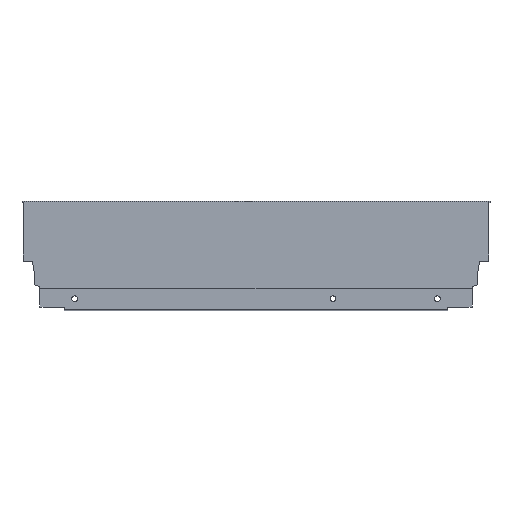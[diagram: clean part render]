
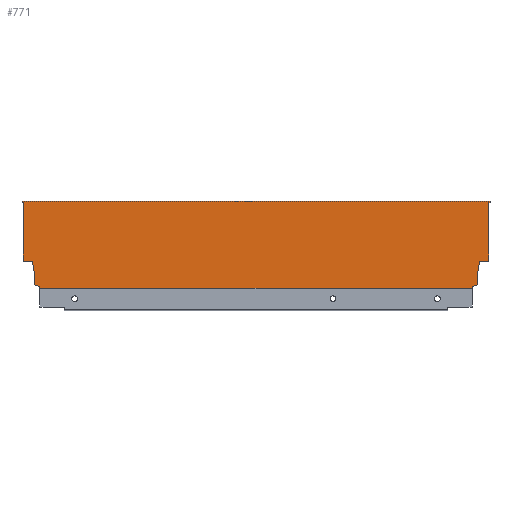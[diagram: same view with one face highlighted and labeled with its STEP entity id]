
A CAD part, top view. The second image highlights one B-rep face of the part: STEP entity #771.
In plain terms, the highlighted planar face has unit normal (0, 0, 1).
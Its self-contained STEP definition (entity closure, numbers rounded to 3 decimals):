
#14 = VERTEX_POINT ( 'NONE', #105 ) ;
#20 = VERTEX_POINT ( 'NONE', #111 ) ;
#22 = VERTEX_POINT ( 'NONE', #113 ) ;
#29 = VERTEX_POINT ( 'NONE', #120 ) ;
#30 = VERTEX_POINT ( 'NONE', #121 ) ;
#31 = VERTEX_POINT ( 'NONE', #122 ) ;
#34 = VERTEX_POINT ( 'NONE', #125 ) ;
#35 = VERTEX_POINT ( 'NONE', #126 ) ;
#37 = VERTEX_POINT ( 'NONE', #128 ) ;
#39 = VERTEX_POINT ( 'NONE', #130 ) ;
#42 = VERTEX_POINT ( 'NONE', #133 ) ;
#49 = VERTEX_POINT ( 'NONE', #140 ) ;
#54 = VERTEX_POINT ( 'NONE', #145 ) ;
#57 = VERTEX_POINT ( 'NONE', #148 ) ;
#59 = VERTEX_POINT ( 'NONE', #150 ) ;
#60 = VERTEX_POINT ( 'NONE', #151 ) ;
#62 = VERTEX_POINT ( 'NONE', #153 ) ;
#66 = VERTEX_POINT ( 'NONE', #157 ) ;
#105 = CARTESIAN_POINT ( 'NONE',  ( 0., 66.5, 7.5 ) ) ;
#111 = CARTESIAN_POINT ( 'NONE',  ( -363., 66.5, 7.5 ) ) ;
#113 = CARTESIAN_POINT ( 'NONE',  ( -354.1, 2.64, 7.5 ) ) ;
#120 = CARTESIAN_POINT ( 'NONE',  ( -13.004, 0., 7.5 ) ) ;
#121 = CARTESIAN_POINT ( 'NONE',  ( -8.9, 2.64, 7.5 ) ) ;
#122 = CARTESIAN_POINT ( 'NONE',  ( -13.004, 1.146, 7.5 ) ) ;
#125 = CARTESIAN_POINT ( 'NONE',  ( -363., 21.2, 7.5 ) ) ;
#126 = CARTESIAN_POINT ( 'NONE',  ( 1., 68., 7.5 ) ) ;
#128 = CARTESIAN_POINT ( 'NONE',  ( 0., 21.2, 7.5 ) ) ;
#130 = CARTESIAN_POINT ( 'NONE',  ( -355.94, 21.2, 7.5 ) ) ;
#133 = CARTESIAN_POINT ( 'NONE',  ( -354.1, 10.765, 7.5 ) ) ;
#140 = CARTESIAN_POINT ( 'NONE',  ( -7.06, 21.2, 7.5 ) ) ;
#145 = CARTESIAN_POINT ( 'NONE',  ( -364., 68., 7.5 ) ) ;
#148 = CARTESIAN_POINT ( 'NONE',  ( -8.9, 10.765, 7.5 ) ) ;
#150 = CARTESIAN_POINT ( 'NONE',  ( 1., 66.5, 7.5 ) ) ;
#151 = CARTESIAN_POINT ( 'NONE',  ( -349.996, 1.146, 7.5 ) ) ;
#153 = CARTESIAN_POINT ( 'NONE',  ( -349.996, 0., 7.5 ) ) ;
#157 = CARTESIAN_POINT ( 'NONE',  ( -364., 66.5, 7.5 ) ) ;
#379 = PLANE ( 'NONE',  #916 ) ;
#382 = CARTESIAN_POINT ( 'NONE',  ( -363., 0., 7.5 ) ) ;
#385 = DIRECTION ( 'NONE',  ( 0., 0., 1. ) ) ;
#386 = DIRECTION ( 'NONE',  ( 1., 0., 0. ) ) ;
#600 = CARTESIAN_POINT ( 'NONE',  ( 0., 0., 7.5 ) ) ;
#601 = DIRECTION ( 'NONE',  ( 0., -1., 0. ) ) ;
#639 = CARTESIAN_POINT ( 'NONE',  ( -355.94, 21.2, 7.5 ) ) ;
#640 = DIRECTION ( 'NONE',  ( -0.174, 0.985, 0. ) ) ;
#641 = CARTESIAN_POINT ( 'NONE',  ( -363., 0., 7.5 ) ) ;
#648 = CARTESIAN_POINT ( 'NONE',  ( -364., 66.5, 7.5 ) ) ;
#649 = DIRECTION ( 'NONE',  ( 0., 1., 0. ) ) ;
#652 = CARTESIAN_POINT ( 'NONE',  ( -363., 0., 7.5 ) ) ;
#653 = DIRECTION ( 'NONE',  ( 0., -1., 0. ) ) ;
#654 = CARTESIAN_POINT ( 'NONE',  ( -349.996, 1.146, 7.5 ) ) ;
#655 = DIRECTION ( 'NONE',  ( 1., 0., 0. ) ) ;
#656 = CARTESIAN_POINT ( 'NONE',  ( -354.1, 2.64, 7.5 ) ) ;
#657 = DIRECTION ( 'NONE',  ( -0.94, 0.342, 0. ) ) ;
#658 = CARTESIAN_POINT ( 'NONE',  ( -364., 66.5, 7.5 ) ) ;
#659 = DIRECTION ( 'NONE',  ( 1., 0., 0. ) ) ;
#660 = CARTESIAN_POINT ( 'NONE',  ( -8.9, 10.765, 7.5 ) ) ;
#661 = DIRECTION ( 'NONE',  ( 0., -1., 0. ) ) ;
#662 = CARTESIAN_POINT ( 'NONE',  ( -368., 21.2, 7.5 ) ) ;
#663 = DIRECTION ( 'NONE',  ( -1., 0., 0. ) ) ;
#664 = CARTESIAN_POINT ( 'NONE',  ( -7.06, 21.2, 7.5 ) ) ;
#665 = DIRECTION ( 'NONE',  ( -0.174, -0.985, 0. ) ) ;
#667 = CARTESIAN_POINT ( 'NONE',  ( -363., 68., 7.5 ) ) ;
#668 = DIRECTION ( 'NONE',  ( 1., 0., 0. ) ) ;
#669 = DIRECTION ( 'NONE',  ( 0., 1., 0. ) ) ;
#670 = CARTESIAN_POINT ( 'NONE',  ( -354.1, 10.765, 7.5 ) ) ;
#671 = DIRECTION ( 'NONE',  ( 0., 1., 0. ) ) ;
#672 = CARTESIAN_POINT ( 'NONE',  ( 0., 21.2, 7.5 ) ) ;
#673 = DIRECTION ( 'NONE',  ( -1., 0., 0. ) ) ;
#681 = CARTESIAN_POINT ( 'NONE',  ( -13.004, 1.146, 7.5 ) ) ;
#682 = DIRECTION ( 'NONE',  ( 0., -1., 0. ) ) ;
#683 = CARTESIAN_POINT ( 'NONE',  ( -8.9, 2.64, 7.5 ) ) ;
#684 = DIRECTION ( 'NONE',  ( -0.94, -0.342, 0. ) ) ;
#685 = CARTESIAN_POINT ( 'NONE',  ( 1., 66.5, 7.5 ) ) ;
#686 = DIRECTION ( 'NONE',  ( -1., 0., 0. ) ) ;
#689 = CARTESIAN_POINT ( 'NONE',  ( 1., 68., 7.5 ) ) ;
#690 = DIRECTION ( 'NONE',  ( 0., -1., 0. ) ) ;
#771 = ADVANCED_FACE ( 'NONE', ( #1387 ), #379, .T. ) ;
#916 = AXIS2_PLACEMENT_3D ( 'NONE', #382, #385, #386 ) ;
#944 = EDGE_CURVE ( 'NONE', #14, #37, #1582, .T. ) ;
#962 = EDGE_CURVE ( 'NONE', #42, #39, #1613, .T. ) ;
#966 = EDGE_CURVE ( 'NONE', #66, #54, #1627, .T. ) ;
#968 = EDGE_CURVE ( 'NONE', #20, #34, #1596, .T. ) ;
#969 = EDGE_CURVE ( 'NONE', #62, #29, #1630, .T. ) ;
#970 = EDGE_CURVE ( 'NONE', #60, #22, #1634, .T. ) ;
#971 = EDGE_CURVE ( 'NONE', #66, #20, #1636, .T. ) ;
#972 = EDGE_CURVE ( 'NONE', #57, #30, #1638, .T. ) ;
#973 = EDGE_CURVE ( 'NONE', #39, #34, #1640, .T. ) ;
#974 = EDGE_CURVE ( 'NONE', #49, #57, #1642, .T. ) ;
#975 = EDGE_CURVE ( 'NONE', #54, #35, #1644, .T. ) ;
#976 = EDGE_CURVE ( 'NONE', #62, #60, #1624, .T. ) ;
#977 = EDGE_CURVE ( 'NONE', #22, #42, #1647, .T. ) ;
#978 = EDGE_CURVE ( 'NONE', #37, #49, #1649, .T. ) ;
#1134 = ORIENTED_EDGE ( 'NONE', *, *, #944, .F. ) ;
#1239 = ORIENTED_EDGE ( 'NONE', *, *, #1676, .F. ) ;
#1240 = ORIENTED_EDGE ( 'NONE', *, *, #1674, .F. ) ;
#1241 = ORIENTED_EDGE ( 'NONE', *, *, #978, .F. ) ;
#1242 = ORIENTED_EDGE ( 'NONE', *, *, #972, .F. ) ;
#1243 = ORIENTED_EDGE ( 'NONE', *, *, #969, .T. ) ;
#1244 = ORIENTED_EDGE ( 'NONE', *, *, #1672, .F. ) ;
#1245 = ORIENTED_EDGE ( 'NONE', *, *, #974, .F. ) ;
#1246 = ORIENTED_EDGE ( 'NONE', *, *, #1673, .F. ) ;
#1254 = ORIENTED_EDGE ( 'NONE', *, *, #966, .F. ) ;
#1263 = ORIENTED_EDGE ( 'NONE', *, *, #976, .F. ) ;
#1279 = ORIENTED_EDGE ( 'NONE', *, *, #977, .F. ) ;
#1280 = ORIENTED_EDGE ( 'NONE', *, *, #975, .F. ) ;
#1311 = ORIENTED_EDGE ( 'NONE', *, *, #970, .F. ) ;
#1316 = ORIENTED_EDGE ( 'NONE', *, *, #973, .F. ) ;
#1318 = ORIENTED_EDGE ( 'NONE', *, *, #971, .T. ) ;
#1326 = ORIENTED_EDGE ( 'NONE', *, *, #962, .F. ) ;
#1330 = EDGE_LOOP ( 'NONE', ( #1280, #1254, #1318, #1344, #1316, #1326, #1279, #1311, #1263, #1243, #1244, #1246, #1242, #1245, #1241, #1134, #1240, #1239 ) ) ;
#1344 = ORIENTED_EDGE ( 'NONE', *, *, #968, .T. ) ;
#1387 = FACE_OUTER_BOUND ( 'NONE', #1330, .T. ) ;
#1582 = LINE ( 'NONE', #600, #1584 ) ;
#1584 = VECTOR ( 'NONE', #601, 1000. ) ;
#1596 = LINE ( 'NONE', #652, #1616 ) ;
#1613 = LINE ( 'NONE', #639, #1617 ) ;
#1616 = VECTOR ( 'NONE', #653, 1000. ) ;
#1617 = VECTOR ( 'NONE', #640, 1000. ) ;
#1624 = LINE ( 'NONE', #654, #1646 ) ;
#1627 = LINE ( 'NONE', #648, #1628 ) ;
#1628 = VECTOR ( 'NONE', #649, 1000. ) ;
#1629 = VECTOR ( 'NONE', #682, 1000. ) ;
#1630 = LINE ( 'NONE', #641, #1632 ) ;
#1632 = VECTOR ( 'NONE', #655, 1000. ) ;
#1634 = LINE ( 'NONE', #656, #1635 ) ;
#1635 = VECTOR ( 'NONE', #657, 1000. ) ;
#1636 = LINE ( 'NONE', #658, #1637 ) ;
#1637 = VECTOR ( 'NONE', #659, 1000. ) ;
#1638 = LINE ( 'NONE', #660, #1639 ) ;
#1639 = VECTOR ( 'NONE', #661, 1000. ) ;
#1640 = LINE ( 'NONE', #662, #1641 ) ;
#1641 = VECTOR ( 'NONE', #663, 1000. ) ;
#1642 = LINE ( 'NONE', #664, #1643 ) ;
#1643 = VECTOR ( 'NONE', #665, 1000. ) ;
#1644 = LINE ( 'NONE', #667, #1645 ) ;
#1645 = VECTOR ( 'NONE', #668, 1000. ) ;
#1646 = VECTOR ( 'NONE', #669, 1000. ) ;
#1647 = LINE ( 'NONE', #670, #1648 ) ;
#1648 = VECTOR ( 'NONE', #671, 1000. ) ;
#1649 = LINE ( 'NONE', #672, #1650 ) ;
#1650 = VECTOR ( 'NONE', #673, 1000. ) ;
#1655 = LINE ( 'NONE', #681, #1629 ) ;
#1656 = LINE ( 'NONE', #683, #1657 ) ;
#1657 = VECTOR ( 'NONE', #684, 1000. ) ;
#1658 = LINE ( 'NONE', #685, #1659 ) ;
#1659 = VECTOR ( 'NONE', #686, 1000. ) ;
#1662 = LINE ( 'NONE', #689, #1663 ) ;
#1663 = VECTOR ( 'NONE', #690, 1000. ) ;
#1672 = EDGE_CURVE ( 'NONE', #31, #29, #1655, .T. ) ;
#1673 = EDGE_CURVE ( 'NONE', #30, #31, #1656, .T. ) ;
#1674 = EDGE_CURVE ( 'NONE', #59, #14, #1658, .T. ) ;
#1676 = EDGE_CURVE ( 'NONE', #35, #59, #1662, .T. ) ;
